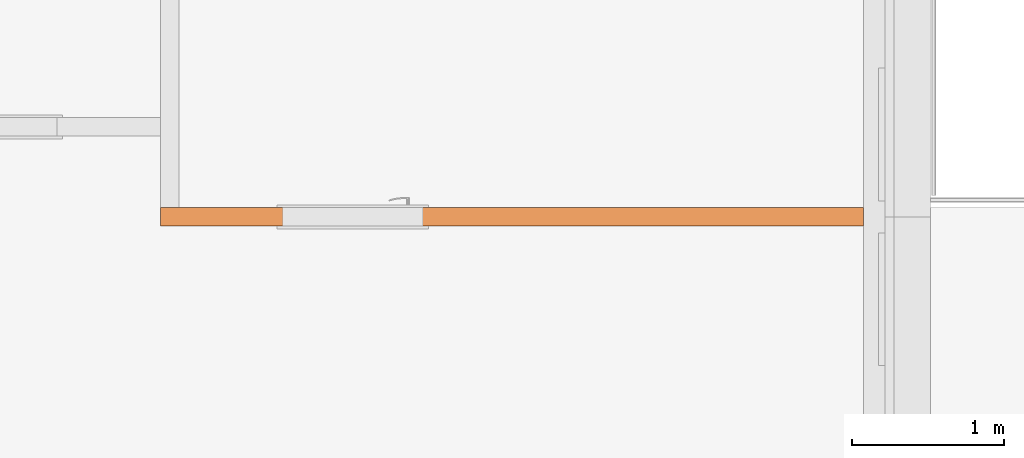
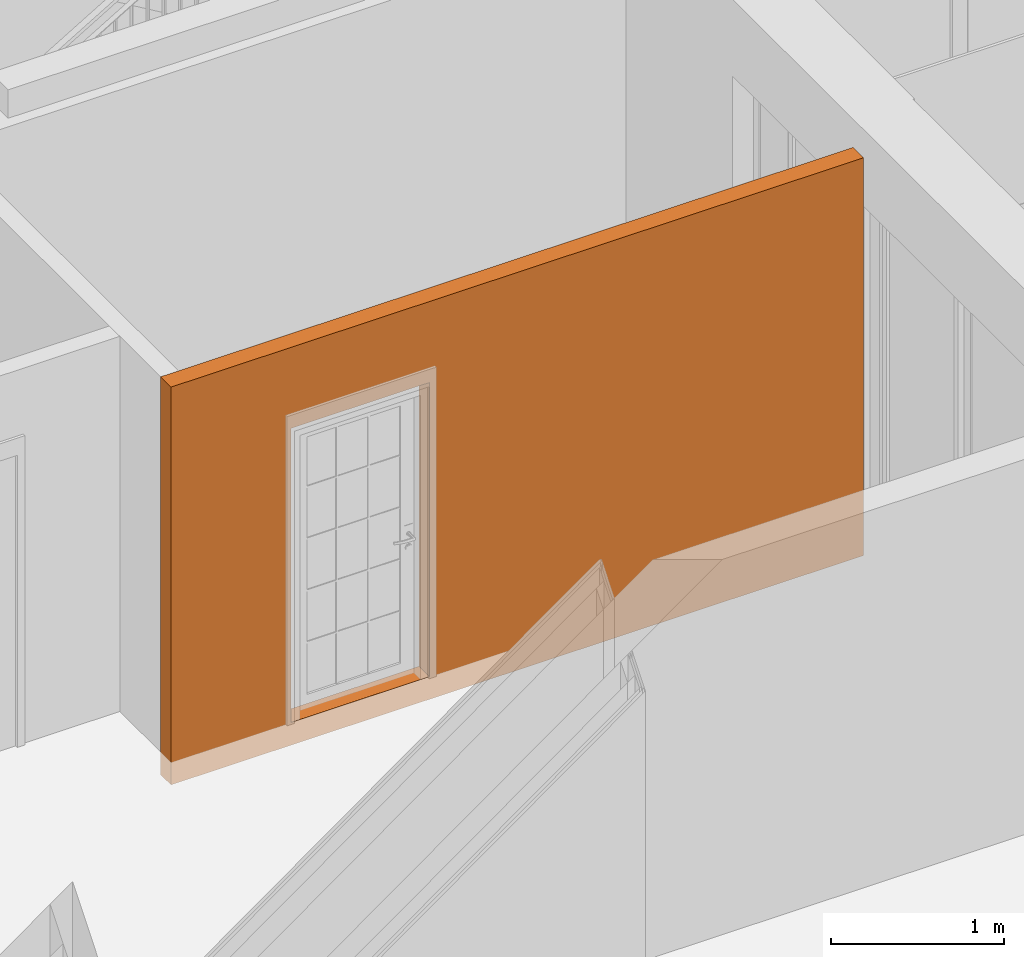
# One storey, part 42 of 67: 1 proxy, 1 opening.
"""IFC2X3 building model written with IfcOpenShell, lengths in millimetres."""

import ifcopenshell
import ifcopenshell.guid

model = None  # the IFC model being written
_history = None  # IfcOwnerHistory: only IFC2X3 demands one
_inside = {}  # id of a spatial element -> (the spatial element, [elements in it])
_under = {}  # id of a project, library or spatial element -> (it, [spatial elements below it])
_declared = {}  # id of a project -> (the project, [libraries it declares])
_typed = {}  # id of a type object -> (the type object, [elements of that type])
_made_of = {}  # id of a material, layer set ... -> (it, [elements and type objects made of it])


def new_model(schema):
    """Start an empty IFC model of exactly this schema.

    Asked for "IFC4X3", IfcOpenShell would pick the latest addendum, in which some entities
    have other attributes; the version numbers below select the first issue.
    IFC2X3 requires an IfcOwnerHistory on every rooted entity: one is made here for all.
    """
    global model, _history
    if schema == "IFC4X3":
        model = ifcopenshell.file(schema_version=(4, 3, 0, 0))
    else:
        model = ifcopenshell.file(schema=schema)
    _inside.clear()
    _under.clear()
    _declared.clear()
    _typed.clear()
    _made_of.clear()
    _history = None
    if model.schema == "IFC2X3":
        org = make("IfcOrganization", Name="unknown")
        user = make(
            "IfcPersonAndOrganization",
            ThePerson=make("IfcPerson", FamilyName="unknown"),
            TheOrganization=org,
        )
        app = make(
            "IfcApplication",
            ApplicationDeveloper=org,
            Version="unknown",
            ApplicationFullName="unknown",
            ApplicationIdentifier="unknown",
        )
        _history = make(
            "IfcOwnerHistory",
            OwningUser=user,
            OwningApplication=app,
            ChangeAction="ADDED",
            CreationDate=0,
        )
    return model


def make(cls, **values):
    """One entity of the class cls with the attributes given. An attribute that is None is left unset."""
    return model.create_entity(
        cls, **{name: value for name, value in values.items() if value is not None}
    )


def entity(cls, *values):
    """Any entity or typed value of the class cls, its attributes in the order of the schema. None: left unset."""
    e = model.create_entity(cls)
    for i, value in enumerate(values):
        if value is not None:
            e[i] = value
    return e


def rooted(cls, **values):
    """An entity with a GlobalId (a new one), such as an element, a storey or a relation."""
    return make(cls, GlobalId=ifcopenshell.guid.new(), OwnerHistory=_history, **values)


def si_unit(unit_type, name, prefix=None):
    """IfcSIUnit, for example si_unit("LENGTHUNIT", "METRE", prefix="MILLI")."""
    return make("IfcSIUnit", UnitType=unit_type, Prefix=prefix, Name=name)


def converted_unit(unit_type, name, factor, base, dimensions=None, offset=None):
    """IfcConversionBasedUnit, such as the inch: factor (a typed value) times the base unit."""
    return make(
        "IfcConversionBasedUnit"
        if offset is None
        else "IfcConversionBasedUnitWithOffset",
        ConversionOffset=offset,
        Dimensions=None
        if dimensions is None
        else entity("IfcDimensionalExponents", *dimensions),
        UnitType=unit_type,
        Name=name,
        ConversionFactor=make(
            "IfcMeasureWithUnit", ValueComponent=factor, UnitComponent=base
        ),
    )


def derived_unit(unit_type, elements):
    """IfcDerivedUnit: a product of units, each with its exponent."""
    return make(
        "IfcDerivedUnit",
        Elements=[
            make("IfcDerivedUnitElement", Unit=unit, Exponent=power)
            for unit, power in elements
        ],
        UnitType=unit_type,
    )


def money_unit(currency):
    """IfcMonetaryUnit."""
    return make("IfcMonetaryUnit", Currency=currency)


def assignment(units):
    """IfcUnitAssignment: the units of a project."""
    return None if units is None else make("IfcUnitAssignment", Units=units)


def point(xyz):
    """IfcCartesianPoint."""
    return None if xyz is None else make("IfcCartesianPoint", Coordinates=xyz)


def direction(xyz):
    """IfcDirection."""
    return None if xyz is None else make("IfcDirection", DirectionRatios=xyz)


def frame(location, z_axis=None, x_axis=None):
    """IfcAxis2Placement3D, a coordinate frame: its origin and axes. An axis left out is left unset."""
    return make(
        "IfcAxis2Placement3D",
        Location=point(location),
        Axis=direction(z_axis),
        RefDirection=direction(x_axis),
    )


def frame_2d(location, x_axis=None):
    """IfcAxis2Placement2D, a coordinate frame in the plane: its origin and x axis."""
    return make(
        "IfcAxis2Placement2D", Location=point(location), RefDirection=direction(x_axis)
    )


def origin_with_axes():
    """The frame at (0, 0, 0) with the z axis (0, 0, 1) and the x axis (1, 0, 0) written out."""
    return frame((0.0, 0.0, 0.0), z_axis=(0.0, 0.0, 1.0), x_axis=(1.0, 0.0, 0.0))


def origin_2d_with_axis():
    """The frame at (0, 0) in the plane with the x axis (1, 0) written out."""
    return frame_2d((0.0, 0.0), x_axis=(1.0, 0.0))


def place(relative_to, where):
    """IfcLocalPlacement: puts the frame where relative to a parent placement (None: the world)."""
    return make(
        "IfcLocalPlacement", PlacementRelTo=relative_to, RelativePlacement=where
    )


def context(
    kind, dimensions, precision=None, world=None, true_north=None, identifier=None
):
    """IfcGeometricRepresentationContext, for example the 3D "Model" context."""
    return make(
        "IfcGeometricRepresentationContext",
        ContextIdentifier=identifier,
        ContextType=kind,
        CoordinateSpaceDimension=dimensions,
        Precision=precision,
        WorldCoordinateSystem=world,
        TrueNorth=true_north,
    )


def subcontext(parent, identifier, kind, view, scale=None):
    """IfcGeometricRepresentationSubContext, for example "Body" below "Model"."""
    return make(
        "IfcGeometricRepresentationSubContext",
        ContextIdentifier=identifier,
        ContextType=kind,
        ParentContext=parent,
        TargetScale=scale,
        TargetView=view,
    )


def project(units=None, contexts=None):
    """IfcProject with its units and contexts."""
    return rooted(
        "IfcProject",
        Name="project",
        RepresentationContexts=contexts,
        UnitsInContext=assignment(units),
    )


def spatial(cls, under=None, at=None, **own):
    """A site, building, storey or space (cls), placed at a placement, below another one or the project."""
    s = rooted(cls, ObjectPlacement=at, **own)
    if under is not None:
        _under.setdefault(under.id(), (under, []))[1].append(s)
    return s


def profile(cls, at=None, kind="AREA", **sizes):
    """A parametric profile (cls). Its sizes go by their IFC names, for example OverallWidth=200.0."""
    return make(cls, ProfileType=kind, Position=at, **sizes)


def rectangle(**sizes):
    """IfcRectangleProfileDef."""
    return profile("IfcRectangleProfileDef", **sizes)


def extrude(swept, where, along, depth):
    """IfcExtrudedAreaSolid: the profile swept, set in the frame where, extruded along a direction by depth."""
    return make(
        "IfcExtrudedAreaSolid",
        SweptArea=swept,
        Position=where,
        ExtrudedDirection=direction(along),
        Depth=depth,
    )


def faces_of(points, faces, orient=None, outer=None):
    """IfcFace entities. A face is a list of loops; a loop is a list of indices into points, from 0.

    orient and outer hold one flag for each loop. By default every Orientation is true, the
    first loop of a face is its IfcFaceOuterBound and the others are IfcFaceBound.
    """
    made = []
    for i, loops in enumerate(faces):
        bounds = []
        for j, loop in enumerate(loops):
            is_outer = j == 0 if outer is None else outer[i][j]
            bounds.append(
                make(
                    "IfcFaceOuterBound" if is_outer else "IfcFaceBound",
                    Bound=make("IfcPolyLoop", Polygon=[points[k] for k in loop]),
                    Orientation=True if orient is None else orient[i][j],
                )
            )
        made.append(make("IfcFace", Bounds=bounds))
    return made


def faceted_brep(points, faces, orient=None, outer=None, voids=None):
    """IfcFacetedBrep: a solid bounded by flat faces; with voids (closed shells), ...WithVoids."""
    shared = [point(p) for p in points]
    hull = make("IfcClosedShell", CfsFaces=faces_of(shared, faces, orient, outer))
    if voids is None:
        return make("IfcFacetedBrep", Outer=hull)
    return make(
        "IfcFacetedBrepWithVoids",
        Outer=hull,
        Voids=[
            make(cls, CfsFaces=faces_of(shared, fs, o, b)) for cls, fs, o, b in voids
        ],
    )


def shape(context_of_items, identifier, shape_type, items):
    """IfcShapeRepresentation: the items that make up one representation, for example the "Body"."""
    return make(
        "IfcShapeRepresentation",
        ContextOfItems=context_of_items,
        RepresentationIdentifier=identifier,
        RepresentationType=shape_type,
        Items=items,
    )


def material(Name=None, Category=None):
    """IfcMaterial."""
    return make("IfcMaterial", Name=Name, Category=Category)


def made_of(thing, what):
    """Note that an element or type object is made of a material, layer set ...; save() writes the relation."""
    if what is not None:
        _made_of.setdefault(what.id(), (what, []))[1].append(thing)
    return thing


def type_object(cls, material=None, **own):
    """A type object (cls), such as IfcWallType, which elements share."""
    return made_of(rooted(cls, **own), material)


def element(
    cls,
    number,
    at=None,
    inside=None,
    cuts=None,
    type_object=None,
    material=None,
    context=None,
    identifier="Body",
    shape_type=None,
    held_by="IfcProductDefinitionShape",
    body=None,
    shapes=None,
    **own,
):
    """One element of the class cls, such as IfcWall. Its Tag is "e" and its number.

    at: its placement. inside: the storey or other place that contains it. cuts: it is an
    opening in that element (IfcRelVoidsElement). A single representation is given by context,
    identifier, shape_type and body (its items); several are given by shapes. held_by: the class
    of the entity that holds the representations. save() writes the other relations.
    """
    e = rooted(cls, Tag="e%d" % number, ObjectPlacement=at, **own)
    if body is not None:
        shapes = [shape(context, identifier, shape_type, body)]
    if shapes is not None:
        e.Representation = make(held_by, Representations=shapes)
    if inside is not None:
        _inside.setdefault(inside.id(), (inside, []))[1].append(e)
    if cuts is not None:
        rooted(
            "IfcRelVoidsElement", RelatingBuildingElement=cuts, RelatedOpeningElement=e
        )
    if type_object is not None:
        _typed.setdefault(type_object.id(), (type_object, []))[1].append(e)
    return made_of(e, material)


def aggregate(whole, parts):
    """IfcRelAggregates: a whole, such as a stair, and the parts it consists of."""
    return rooted("IfcRelAggregates", RelatingObject=whole, RelatedObjects=parts)


def save(model, path):
    """Write the relations noted so far, then the file.

    IfcRelAggregates (storeys below a building ...), IfcRelContainedInSpatialStructure (elements
    in a storey), IfcRelDefinesByType, IfcRelAssociatesMaterial and IfcRelDeclares: one each for
    every whole, place, type object, material and project.
    """
    for whole, parts in _under.values():
        aggregate(whole, parts)
    for where, things in _inside.values():
        rooted(
            "IfcRelContainedInSpatialStructure",
            RelatedElements=things,
            RelatingStructure=where,
        )
    for kind, things in _typed.values():
        rooted("IfcRelDefinesByType", RelatedObjects=things, RelatingType=kind)
    for what, things in _made_of.values():
        rooted("IfcRelAssociatesMaterial", RelatedObjects=things, RelatingMaterial=what)
    for by, libraries in _declared.values():
        rooted("IfcRelDeclares", RelatingContext=by, RelatedDefinitions=libraries)
    model.write(path)


model = new_model("IFC2X3")

# Units and contexts
model_context = context("Model", 3, precision=0.01, world=origin_with_axes(), true_north=direction((0.34421633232, 0.938890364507)))
body_context = subcontext(model_context, "Body", "Model", "MODEL_VIEW")
ifc_project = project(units=[si_unit("LENGTHUNIT", "METRE", prefix="MILLI"), si_unit("AREAUNIT", "SQUARE_METRE"), si_unit("VOLUMEUNIT", "CUBIC_METRE"), converted_unit("PLANEANGLEUNIT", "DEGREE", entity("IfcPlaneAngleMeasure", 0.0174532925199), si_unit("PLANEANGLEUNIT", "RADIAN"), dimensions=[0, 0, 0, 0, 0, 0, 0]), si_unit("SOLIDANGLEUNIT", "STERADIAN"), money_unit("USD"), converted_unit("TIMEUNIT", "Year", entity("IfcTimeMeasure", 31556926.0), si_unit("TIMEUNIT", "SECOND"), dimensions=[0, 0, 1, 0, 0, 0, 0]), si_unit("MASSUNIT", "GRAM", prefix="KILO"), si_unit("THERMODYNAMICTEMPERATUREUNIT", "DEGREE_CELSIUS"), si_unit("LUMINOUSINTENSITYUNIT", "LUMEN"), si_unit("ENERGYUNIT", "JOULE", prefix="MEGA"), derived_unit("THERMALCONDUCTANCEUNIT", [(si_unit("POWERUNIT", "WATT"), 1), (si_unit("LENGTHUNIT", "METRE"), -1), (si_unit("THERMODYNAMICTEMPERATUREUNIT", "KELVIN"), -1)]), derived_unit("SPECIFICHEATCAPACITYUNIT", [(si_unit("ENERGYUNIT", "JOULE"), 1), (si_unit("MASSUNIT", "GRAM", prefix="KILO"), -1), (si_unit("THERMODYNAMICTEMPERATUREUNIT", "KELVIN"), -1)]), derived_unit("MASSDENSITYUNIT", [(si_unit("MASSUNIT", "GRAM", prefix="KILO"), 1), (si_unit("VOLUMEUNIT", "CUBIC_METRE"), -1)])], contexts=[model_context])

# Site, building, storey
site_placement = place(None, origin_with_axes())
site = spatial("IfcSite", under=ifc_project, at=site_placement, Name="USTRONIE MORSKIE", CompositionType="ELEMENT")
building_placement = place(site_placement, origin_with_axes())
building = spatial("IfcBuilding", under=site, at=building_placement, Name="Budynek", CompositionType="ELEMENT")
storey_placement = place(building_placement, frame((0.0, 0.0, 4000.0), z_axis=(0.0, 0.0, 1.0), x_axis=(1.0, 0.0, 0.0)))
storey = spatial("IfcBuildingStorey", under=building, at=storey_placement, Name="PIĘTRO 1", CompositionType="ELEMENT", Elevation=4000.0)

# Proxy, opening
ifc_material = material(Name="Bloczki silikatowe")
building_element_proxy_type = type_object("IfcBuildingElementProxyType", Name="Bloczki silikatowe 120", PredefinedType="NOTDEFINED")
proxy_placement = place(storey_placement, frame((362417.920919, 724051.179686, -160.0), z_axis=(0.0, 0.0, 1.0), x_axis=(1.0, 0.0, 0.0)))
proxy = element("IfcBuildingElementProxy", 1, at=proxy_placement, inside=storey, type_object=building_element_proxy_type, material=ifc_material, Name="SW-04", context=body_context, shape_type="Brep", body=[
    faceted_brep([(4550.005321, -59.9999999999, 2800.0), (4550.0050689, 59.9999999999, 2800.0), (-60.0, 59.9999999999, 2800.0), (-60.0, -59.9999999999, 2800.0), (4550.005321, -59.9999999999, 0.0), (4550.0050689, 59.9999999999, 0.0), (-60.0, 59.9999999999, 0.0), (-60.0, -59.9999999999, 0.0)], [[[0, 1, 2, 3]], [[1, 0, 4, 5]], [[1, 5, 6, 2]], [[7, 3, 2, 6]], [[4, 0, 3, 7]], [[5, 4, 7, 6]]]),
])
opening_placement = place(proxy_placement, frame((1200.0, 0.0, 160.0), z_axis=(0.0, 0.0, 1.0), x_axis=(1.0, 0.0, 0.0)))
element("IfcOpeningElement", 2, at=opening_placement, cuts=proxy, Name="Dw.3", context=body_context, shape_type="SweptSolid", body=[
    extrude(rectangle(XDim=920.0, YDim=2070.0, at=origin_2d_with_axis()), frame((0.0, 120.0, 1035.0), z_axis=(0.0, 1.0, 0.0), x_axis=(-1.0, 0.0, 0.0)), (0.0, 0.0, -1.0), 360.0),
    extrude(rectangle(XDim=994.0, YDim=2177.0, at=origin_2d_with_axis()), frame((0.0, 60.0000000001, 1088.5), z_axis=(0.0, 1.0, 0.0), x_axis=(-1.0, 0.0, 0.0)), (0.0, 0.0, 1.0), 120.0),
    extrude(rectangle(XDim=994.0, YDim=2177.0, at=origin_2d_with_axis()), frame((0.0, -59.9999999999, 1088.5), z_axis=(0.0, -1.0, 0.0), x_axis=(-1.0, 0.0, 0.0)), (0.0, 0.0, 1.0), 120.0),
])

save(model, "model.ifc")
